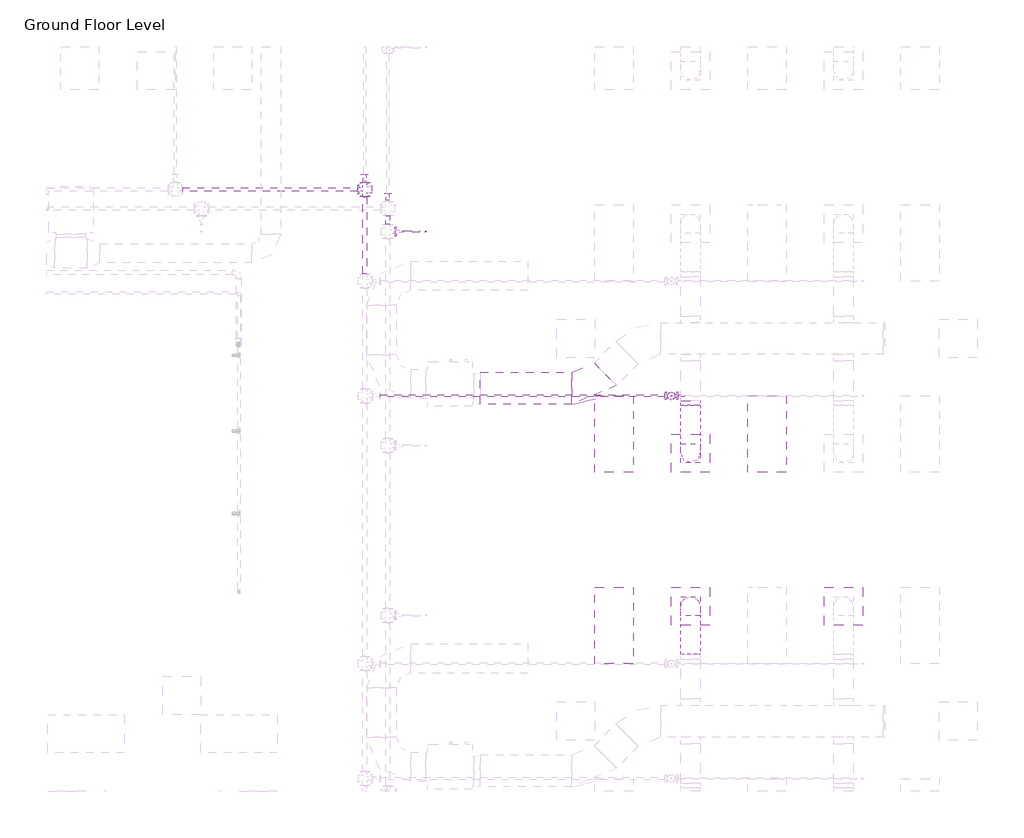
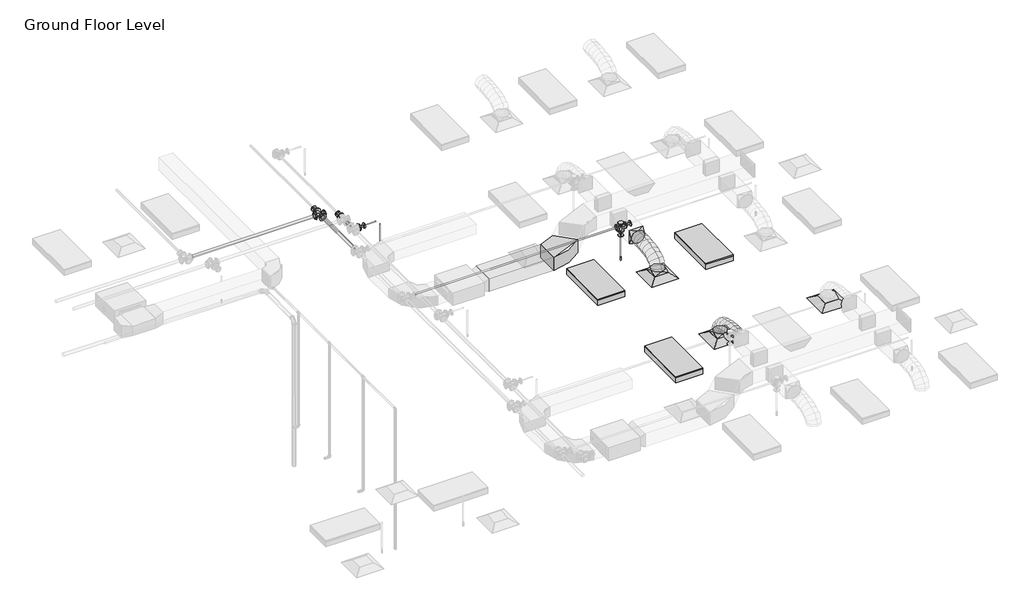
# One storey, part 63 of 68: 7 pipe fittings, 7 pipe segments, 4 duct fittings, 3 air terminals, 3 duct segments, 3 light fixtures, 2 fire suppression terminals.
"""IFC4 building model written with IfcOpenShell, lengths in millimetres."""

from ifc_helpers import new_model, si_unit, point, frame, frame_2d, origin, place, context, project, spatial, polyline, circle_curve, ellipse_curve, trimmed, segment, composite_curve, outline, extrude, transform, mapped, element, save
from ifc_brep_helpers import plane_surface, cylinder_surface, advanced_brep
from components import m_return_diffuser_600_x_600_face_300_x_300_connection_ff221211, m_rectangular_elbow_radius_1_5_w_acc56c25, m_rectangular_to_round_transition_angle_45_degree_641efff0, m_sprinkler_dry_pendent_hosted_15_mm_dry_pendent_9bda8e11, m_sprinkler_pendent_15_mm_pendent_06fcbd8e, m_troffer_light_parabolic_rectangular1_0600x1200mm_4_lamp_86473d4a, m_reducer_flanged_cs_class_150_standard_ccf252ad, m_reducer_flanged_cs_class_150_standard_9dfe9ec5, m_reducer_flanged_cs_class_150_standard_a7631c35, m_tee_round_base_flanged_cs_class_150_standard_dd767e04, m_tee_round_base_flanged_cs_class_150_standard_7e5987a1

model = new_model("IFC4")

# Units and contexts
model_context = context("Model", 3, world=origin())
ifc_project = project(units=[si_unit("LENGTHUNIT", "METRE", prefix="MILLI")], contexts=[model_context])

# Site, building, storey
site = spatial("IfcSite", under=ifc_project)
building = spatial("IfcBuilding", under=site)
storey = spatial("IfcBuildingStorey", under=building, Name="Ground Floor Level", Elevation=900.0)

# Air terminals
placement = place(None, origin())
m_return_diffuser_600_x_600_face_300_x_300_connection_shape = m_return_diffuser_600_x_600_face_300_x_300_connection_ff221211(model_context)
element("IfcAirTerminal", 1, ObjectType="M_Supply Diffuser : 600 x 600 Face 300 x 300 Connection", at=placement, inside=storey, context=model_context, shape_type="MappedRepresentation", body=[
    mapped(m_return_diffuser_600_x_600_face_300_x_300_connection_shape, transform((10742.7672395, 10935.2153534, 3650.0), x_axis=(1.0, 0.0, 0.0), y_axis=(0.0, 1.0, 0.0), z_axis=(0.0, 0.0, 1.0))),
])
element("IfcAirTerminal", 2, ObjectType="M_Supply Diffuser : 600 x 600 Face 300 x 300 Connection", at=placement, inside=storey, context=model_context, shape_type="MappedRepresentation", body=[
    mapped(m_return_diffuser_600_x_600_face_300_x_300_connection_shape, transform((10742.7672395, 8535.2153534, 3650.0), x_axis=(1.0, 0.0, 0.0), y_axis=(0.0, 1.0, 0.0), z_axis=(0.0, 0.0, 1.0))),
])
element("IfcAirTerminal", 3, ObjectType="M_Supply Diffuser : 600 x 600 Face 300 x 300 Connection", at=placement, inside=storey, context=model_context, shape_type="MappedRepresentation", body=[
    mapped(m_return_diffuser_600_x_600_face_300_x_300_connection_shape, transform((13142.7672395, 8535.2153534, 3650.0), x_axis=(1.0, 0.0, 0.0), y_axis=(0.0, 1.0, 0.0), z_axis=(0.0, 0.0, 1.0))),
])

# Duct fittings
m_rectangular_elbow_radius_1_5_w_shape = m_rectangular_elbow_radius_1_5_w_acc56c25(model_context)
element("IfcDuctFitting", 4, ObjectType="M_Rectangular Elbow - Radius : 1.5 W", at=placement, inside=storey, context=model_context, shape_type="MappedRepresentation", body=[
    mapped(m_rectangular_elbow_radius_1_5_w_shape, transform((9187.6927358, 11956.1779527, 4100.0047224), x_axis=(0.9999999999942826, 0.0, -3.3815582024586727e-06), y_axis=(-9.063610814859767e-12, 0.9999999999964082, -2.680306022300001e-06), z_axis=(3.3815582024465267e-06, 2.6803060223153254e-06, 0.9999999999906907))),
])
m_rectangular_to_round_transition_angle_45_degree_shape = m_rectangular_to_round_transition_angle_45_degree_641efff0(model_context)
element("IfcDuctFitting", 5, ObjectType="M_Rectangular to Round Transition - Angle : 45 Degree", at=placement, inside=storey, context=model_context, shape_type="MappedRepresentation", body=[
    mapped(m_rectangular_to_round_transition_angle_45_degree_shape, transform((10742.7672395, 8535.2153534, 3751.6), x_axis=(0.0, 0.0, 1.0), y_axis=(-1.0, 0.0, 0.0), z_axis=(0.0, -1.0, 0.0))),
])
element("IfcDuctFitting", 6, ObjectType="M_Rectangular to Round Transition - Angle : 45 Degree", at=placement, inside=storey, context=model_context, shape_type="MappedRepresentation", body=[
    mapped(m_rectangular_to_round_transition_angle_45_degree_shape, transform((10742.7672395, 10935.2153534, 3751.6), x_axis=(0.0, 0.0, 1.0), y_axis=(-1.0, 0.0, 0.0), z_axis=(0.0, -1.0, 0.0))),
])
element("IfcDuctFitting", 7, ObjectType="M_Rectangular to Round Transition - Angle : 45 Degree", at=placement, inside=storey, context=model_context, shape_type="MappedRepresentation", body=[
    mapped(m_rectangular_to_round_transition_angle_45_degree_shape, transform((10742.7672395, 11762.5512847, 4100.0), x_axis=(0.0, -1.0, 0.0), y_axis=(1.0, 0.0, 0.0), z_axis=(0.0, 0.0, 1.0))),
])

# Duct segments
element("IfcDuctSegment", 8, ObjectType="Flex - Round", at=placement, inside=storey, context=model_context, shape_type="AdvancedBrep", body=[
    advanced_brep(
    [(10892.7672395, 8535.2153534, 3826.6), (10742.7672395, 8385.2153534, 3826.6), (10592.7672395, 8535.2153534, 3826.6), (10742.7672395, 8685.2153534, 3826.6), (10892.7672395, 8535.2153534, 3857.9377114), (10742.7672395, 8385.2153534, 3832.2944892), (10592.7672395, 8535.2153534, 3857.9377114), (10742.7672395, 8685.2153534, 3883.5809337), (10892.7672395, 8518.1994208, 3906.2505728), (10742.7672395, 8384.4614419, 3834.435049), (10592.7672395, 8518.1994208, 3906.2505728), (10742.7672395, 8651.9373998, 3978.0660967), (10892.7672395, 8471.0155405, 3968.7113131), (10742.7672395, 8366.8096412, 3857.8020236), (10592.7672395, 8471.0155405, 3968.7113131), (10742.7672395, 8575.2214397, 4079.6206026), (10892.7672395, 8399.4595883, 4016.0700639), (10742.7672395, 8330.5255327, 3881.8163788), (10592.7672395, 8399.4595883, 4016.0700639), (10742.7672395, 8468.3936439, 4150.3237489), (10892.7672395, 8309.3274403, 4050.4146682), (10742.7672395, 8265.7666771, 3906.4925606), (10592.7672395, 8309.3274403, 4050.4146682), (10742.7672395, 8352.8882035, 4194.3367758), (10892.7672395, 8206.4149725, 4073.8329691), (10742.7672395, 8179.8540485, 3926.0424542), (10592.7672395, 8206.4149725, 4073.8329691), (10742.7672395, 8232.9758965, 4221.6234841), (10892.7672395, 8096.5180607, 4088.4128097), (10742.7672395, 8081.3671584, 3939.1085462), (10592.7672395, 8096.5180607, 4088.4128097), (10742.7672395, 8111.6689631, 4237.7170733), (10892.7672395, 7985.4325811, 4096.242033), (10742.7672395, 7977.9272529, 3946.398915), (10592.7672395, 7985.4325811, 4096.242033), (10742.7672395, 7992.9379093, 4246.085151), (10892.7672395, 7878.9544096, 4099.4084821), (10742.7672395, 7876.2629165, 3949.4222102), (10592.7672395, 7878.9544096, 4099.4084821), (10742.7672395, 7881.6459027, 4249.394754), (10892.7672395, 7782.8794221, 4100.0), (10742.7672395, 7783.8029299, 4249.9971571), (10592.7672395, 7782.8794221, 4100.0), (10742.7672395, 7781.9559143, 3950.0028429)],
    [
        (0, 1, circle_curve(frame((10742.7672395, 8535.2153534, 3826.6), z_axis=(0.0, 0.0, -1.0), x_axis=(1.0, 0.0, 0.0)), 150.0)),
        (1, 2, circle_curve(frame((10742.7672395, 8535.2153534, 3826.6), z_axis=(0.0, 0.0, -1.0), x_axis=(1.0, 0.0, 0.0)), 150.0)),
        (2, 3, circle_curve(frame((10742.7672395, 8535.2153534, 3826.6), z_axis=(0.0, 0.0, -1.0), x_axis=(1.0, 0.0, 0.0)), 150.0)),
        (3, 0, circle_curve(frame((10742.7672395, 8535.2153534, 3826.6), z_axis=(0.0, 0.0, -1.0), x_axis=(1.0, 0.0, 0.0)), 150.0)),
        (0, 4),
        (4, 5, ellipse_curve(frame((10742.7672395, 8535.2153534, 3857.9377114), z_axis=(0.0, 0.16851014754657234, -0.9856999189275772), x_axis=(0.0, -0.9856999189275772, -0.1685101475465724)), 152.176131, 150.0)),
        (5, 1),
        (5, 6, ellipse_curve(frame((10742.7672395, 8535.2153534, 3857.9377114), z_axis=(0.0, 0.16851014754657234, -0.9856999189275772), x_axis=(0.0, -0.9856999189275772, -0.1685101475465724)), 152.176131, 150.0)),
        (6, 2),
        (6, 7, ellipse_curve(frame((10742.7672395, 8535.2153534, 3857.9377114), z_axis=(0.0, 0.16851014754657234, -0.9856999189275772), x_axis=(0.0, -0.9856999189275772, -0.1685101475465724)), 152.176131, 150.0)),
        (7, 3),
        (7, 4, ellipse_curve(frame((10742.7672395, 8535.2153534, 3857.9377114), z_axis=(0.0, 0.16851014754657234, -0.9856999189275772), x_axis=(0.0, -0.9856999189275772, -0.1685101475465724)), 152.176131, 150.0)),
        (4, 8),
        (8, 9, ellipse_curve(frame((10742.7672395, 8518.1994208, 3906.2505728), z_axis=(0.0, 0.4730922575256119, -0.8810128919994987), x_axis=(0.0, -0.8810128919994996, -0.47309225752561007)), 151.8002519, 150.0)),
        (9, 5),
        (9, 10, ellipse_curve(frame((10742.7672395, 8518.1994208, 3906.2505728), z_axis=(0.0, 0.4730922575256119, -0.8810128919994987), x_axis=(0.0, -0.8810128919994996, -0.47309225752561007)), 151.8002519, 150.0)),
        (10, 6),
        (10, 11, ellipse_curve(frame((10742.7672395, 8518.1994208, 3906.2505728), z_axis=(0.0, 0.4730922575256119, -0.8810128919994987), x_axis=(0.0, -0.8810128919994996, -0.47309225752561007)), 151.8002519, 150.0)),
        (11, 7),
        (11, 8, ellipse_curve(frame((10742.7672395, 8518.1994208, 3906.2505728), z_axis=(0.0, 0.4730922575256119, -0.8810128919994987), x_axis=(0.0, -0.8810128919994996, -0.47309225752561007)), 151.8002519, 150.0)),
        (8, 12),
        (12, 13, ellipse_curve(frame((10742.7672395, 8471.0155405, 3968.7113131), z_axis=(0.0, 0.7287877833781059, -0.6847396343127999), x_axis=(0.0, -0.6847396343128, -0.7287877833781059)), 152.1832446, 150.0)),
        (13, 9),
        (13, 14, ellipse_curve(frame((10742.7672395, 8471.0155405, 3968.7113131), z_axis=(0.0, 0.7287877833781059, -0.6847396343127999), x_axis=(0.0, -0.6847396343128, -0.7287877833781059)), 152.1832446, 150.0)),
        (14, 10),
        (14, 15, ellipse_curve(frame((10742.7672395, 8471.0155405, 3968.7113131), z_axis=(0.0, 0.7287877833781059, -0.6847396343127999), x_axis=(0.0, -0.6847396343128, -0.7287877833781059)), 152.1832446, 150.0)),
        (15, 11),
        (15, 12, ellipse_curve(frame((10742.7672395, 8471.0155405, 3968.7113131), z_axis=(0.0, 0.7287877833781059, -0.6847396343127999), x_axis=(0.0, -0.6847396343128, -0.7287877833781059)), 152.1832446, 150.0)),
        (12, 16),
        (16, 17, ellipse_curve(frame((10742.7672395, 8399.4595883, 4016.0700639), z_axis=(0.0, 0.8895859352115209, -0.4567678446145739), x_axis=(0.0, -0.4567678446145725, -0.8895859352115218)), 150.91705, 150.0)),
        (17, 13),
        (17, 18, ellipse_curve(frame((10742.7672395, 8399.4595883, 4016.0700639), z_axis=(0.0, 0.8895859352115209, -0.4567678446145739), x_axis=(0.0, -0.4567678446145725, -0.8895859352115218)), 150.91705, 150.0)),
        (18, 14),
        (18, 19, ellipse_curve(frame((10742.7672395, 8399.4595883, 4016.0700639), z_axis=(0.0, 0.8895859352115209, -0.4567678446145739), x_axis=(0.0, -0.4567678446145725, -0.8895859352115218)), 150.91705, 150.0)),
        (19, 15),
        (19, 16, ellipse_curve(frame((10742.7672395, 8399.4595883, 4016.0700639), z_axis=(0.0, 0.8895859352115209, -0.4567678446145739), x_axis=(0.0, -0.4567678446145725, -0.8895859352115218)), 150.91705, 150.0)),
        (16, 20),
        (20, 21, ellipse_curve(frame((10742.7672395, 8309.3274403, 4050.4146682), z_axis=(0.0, 0.9571203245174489, -0.2896906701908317), x_axis=(0.0, -0.2896906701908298, -0.9571203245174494)), 150.369921, 150.0)),
        (21, 17),
        (21, 22, ellipse_curve(frame((10742.7672395, 8309.3274403, 4050.4146682), z_axis=(0.0, 0.9571203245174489, -0.2896906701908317), x_axis=(0.0, -0.2896906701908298, -0.9571203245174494)), 150.369921, 150.0)),
        (22, 18),
        (22, 23, ellipse_curve(frame((10742.7672395, 8309.3274403, 4050.4146682), z_axis=(0.0, 0.9571203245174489, -0.2896906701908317), x_axis=(0.0, -0.2896906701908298, -0.9571203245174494)), 150.369921, 150.0)),
        (23, 19),
        (23, 20, ellipse_curve(frame((10742.7672395, 8309.3274403, 4050.4146682), z_axis=(0.0, 0.9571203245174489, -0.2896906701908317), x_axis=(0.0, -0.2896906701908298, -0.9571203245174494)), 150.369921, 150.0)),
        (20, 24),
        (24, 25, ellipse_curve(frame((10742.7672395, 8206.4149725, 4073.8329691), z_axis=(0.0, 0.9842313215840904, -0.1768861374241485), x_axis=(0.0, -0.17688613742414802, -0.9842313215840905)), 150.1583131, 150.0)),
        (25, 21),
        (25, 26, ellipse_curve(frame((10742.7672395, 8206.4149725, 4073.8329691), z_axis=(0.0, 0.9842313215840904, -0.1768861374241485), x_axis=(0.0, -0.17688613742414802, -0.9842313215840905)), 150.1583131, 150.0)),
        (26, 22),
        (26, 27, ellipse_curve(frame((10742.7672395, 8206.4149725, 4073.8329691), z_axis=(0.0, 0.9842313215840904, -0.1768861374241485), x_axis=(0.0, -0.17688613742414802, -0.9842313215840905)), 150.1583131, 150.0)),
        (27, 23),
        (27, 24, ellipse_curve(frame((10742.7672395, 8206.4149725, 4073.8329691), z_axis=(0.0, 0.9842313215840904, -0.1768861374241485), x_axis=(0.0, -0.17688613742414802, -0.9842313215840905)), 150.1583131, 150.0)),
        (24, 28),
        (28, 29, ellipse_curve(frame((10742.7672395, 8096.5180607, 4088.4128097), z_axis=(0.0, 0.9948906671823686, -0.10095821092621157), x_axis=(0.0, -0.100958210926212, -0.9948906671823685)), 150.0710264, 150.0)),
        (29, 25),
        (29, 30, ellipse_curve(frame((10742.7672395, 8096.5180607, 4088.4128097), z_axis=(0.0, 0.9948906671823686, -0.10095821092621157), x_axis=(0.0, -0.100958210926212, -0.9948906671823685)), 150.0710264, 150.0)),
        (30, 26),
        (30, 31, ellipse_curve(frame((10742.7672395, 8096.5180607, 4088.4128097), z_axis=(0.0, 0.9948906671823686, -0.10095821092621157), x_axis=(0.0, -0.100958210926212, -0.9948906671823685)), 150.0710264, 150.0)),
        (31, 27),
        (31, 28, ellipse_curve(frame((10742.7672395, 8096.5180607, 4088.4128097), z_axis=(0.0, 0.9948906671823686, -0.10095821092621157), x_axis=(0.0, -0.100958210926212, -0.9948906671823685)), 150.0710264, 150.0)),
        (28, 32),
        (32, 33, ellipse_curve(frame((10742.7672395, 7985.4325811, 4096.242033), z_axis=(0.0, 0.9987479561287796, -0.05002519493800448), x_axis=(0.0, -0.050025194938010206, -0.9987479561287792)), 150.0309634, 150.0)),
        (33, 29),
        (33, 34, ellipse_curve(frame((10742.7672395, 7985.4325811, 4096.242033), z_axis=(0.0, 0.9987479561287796, -0.05002519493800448), x_axis=(0.0, -0.050025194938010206, -0.9987479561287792)), 150.0309634, 150.0)),
        (34, 30),
        (34, 35, ellipse_curve(frame((10742.7672395, 7985.4325811, 4096.242033), z_axis=(0.0, 0.9987479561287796, -0.05002519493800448), x_axis=(0.0, -0.050025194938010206, -0.9987479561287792)), 150.0309634, 150.0)),
        (35, 31),
        (35, 32, ellipse_curve(frame((10742.7672395, 7985.4325811, 4096.242033), z_axis=(0.0, 0.9987479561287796, -0.05002519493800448), x_axis=(0.0, -0.050025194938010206, -0.9987479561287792)), 150.0309634, 150.0)),
        (32, 36),
        (36, 37, ellipse_curve(frame((10742.7672395, 7878.9544096, 4099.4084821), z_axis=(0.0, 0.9998390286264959, -0.017942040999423), x_axis=(0.0, -0.01794204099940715, -0.9998390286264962)), 150.0104193, 150.0)),
        (37, 33),
        (37, 38, ellipse_curve(frame((10742.7672395, 7878.9544096, 4099.4084821), z_axis=(0.0, 0.9998390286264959, -0.017942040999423), x_axis=(0.0, -0.01794204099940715, -0.9998390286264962)), 150.0104193, 150.0)),
        (38, 34),
        (38, 39, ellipse_curve(frame((10742.7672395, 7878.9544096, 4099.4084821), z_axis=(0.0, 0.9998390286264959, -0.017942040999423), x_axis=(0.0, -0.01794204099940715, -0.9998390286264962)), 150.0104193, 150.0)),
        (39, 35),
        (39, 36, ellipse_curve(frame((10742.7672395, 7878.9544096, 4099.4084821), z_axis=(0.0, 0.9998390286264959, -0.017942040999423), x_axis=(0.0, -0.01794204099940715, -0.9998390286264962)), 150.0104193, 150.0)),
        (40, 41, circle_curve(frame((10742.7672395, 7782.8794221, 4100.0), z_axis=(0.0, -0.9999810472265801, 0.006156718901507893), x_axis=(1.0, 0.0, 0.0)), 150.0)),
        (41, 42, circle_curve(frame((10742.7672395, 7782.8794221, 4100.0), z_axis=(0.0, -0.9999810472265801, 0.006156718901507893), x_axis=(1.0, 0.0, 0.0)), 150.0)),
        (42, 43, circle_curve(frame((10742.7672395, 7782.8794221, 4100.0), z_axis=(0.0, -0.9999810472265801, 0.006156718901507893), x_axis=(1.0, 0.0, 0.0)), 150.0)),
        (43, 40, circle_curve(frame((10742.7672395, 7782.8794221, 4100.0), z_axis=(0.0, -0.9999810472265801, 0.006156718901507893), x_axis=(1.0, 0.0, 0.0)), 150.0)),
        (36, 40),
        (43, 37),
        (42, 38),
        (41, 39),
    ],
    [
        plane_surface(frame((10742.7672395, 8385.2153534, 3826.6), z_axis=(0.0, 0.0, -1.0), x_axis=(1.0, 0.0, 0.0))),
        cylinder_surface(frame((10742.7672395, 8535.2153534, 3826.6), z_axis=(0.0, 0.0, -1.0), x_axis=(1.0, 0.0, 0.0)), 150.0),
        cylinder_surface(frame((10742.7672395, 8535.2153534, 3857.9377114), z_axis=(0.0, 0.3322008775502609, -0.9432086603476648), x_axis=(1.0, 0.0, 0.0)), 150.0),
        cylinder_surface(frame((10742.7672395, 8518.1994208, 3906.2505728), z_axis=(0.0, 0.6027625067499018, -0.7979206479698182), x_axis=(1.0, 0.0, 0.0)), 150.0),
        cylinder_surface(frame((10742.7672395, 8471.0155405, 3968.7113131), z_axis=(0.0, 0.8339024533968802, -0.5519118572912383), x_axis=(1.0, 0.0, 0.0)), 150.0),
        cylinder_surface(frame((10742.7672395, 8399.4595883, 4016.0700639), z_axis=(0.0, 0.934458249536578, -0.35607271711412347), x_axis=(1.0, 0.0, 0.0)), 150.0),
        cylinder_surface(frame((10742.7672395, 8309.3274403, 4050.4146682), z_axis=(0.0, 0.9750732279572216, -0.2218833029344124), x_axis=(1.0, 0.0, 0.0)), 150.0),
        cylinder_surface(frame((10742.7672395, 8206.4149725, 4073.8329691), z_axis=(0.0, 0.9913140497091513, -0.13151598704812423), x_axis=(1.0, 0.0, 0.0)), 150.0),
        cylinder_surface(frame((10742.7672395, 8096.5180607, 4088.4128097), z_axis=(0.0, 0.9975255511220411, -0.07030487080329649), x_axis=(1.0, 0.0, 0.0)), 150.0),
        cylinder_surface(frame((10742.7672395, 7985.4325811, 4096.242033), z_axis=(0.0, 0.9995581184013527, -0.029724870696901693), x_axis=(1.0, 0.0, 0.0)), 150.0),
        plane_surface(frame((10742.7672395, 7781.9559143, 3950.0028429), z_axis=(0.0, -0.9999810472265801, 0.0061567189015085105), x_axis=(1.0, 0.0, 0.0))),
        cylinder_surface(frame((10742.7672395, 7878.9544096, 4099.4084821), z_axis=(0.0, 0.9999810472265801, -0.006156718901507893), x_axis=(1.0, 0.0, 0.0)), 150.0),
    ],
    [
        (0, [[1, 2, 3, 4]]),
        (1, [[-1, 5, 6, 7]]),
        (1, [[-2, -7, 8, 9]]),
        (1, [[-3, -9, 10, 11]]),
        (1, [[-4, -11, 12, -5]]),
        (2, [[-6, 13, 14, 15]]),
        (2, [[-8, -15, 16, 17]]),
        (2, [[-10, -17, 18, 19]]),
        (2, [[-12, -19, 20, -13]]),
        (3, [[-14, 21, 22, 23]]),
        (3, [[-16, -23, 24, 25]]),
        (3, [[-18, -25, 26, 27]]),
        (3, [[-20, -27, 28, -21]]),
        (4, [[-22, 29, 30, 31]]),
        (4, [[-24, -31, 32, 33]]),
        (4, [[-26, -33, 34, 35]]),
        (4, [[-28, -35, 36, -29]]),
        (5, [[-30, 37, 38, 39]]),
        (5, [[-32, -39, 40, 41]]),
        (5, [[-34, -41, 42, 43]]),
        (5, [[-36, -43, 44, -37]]),
        (6, [[-38, 45, 46, 47]]),
        (6, [[-40, -47, 48, 49]]),
        (6, [[-42, -49, 50, 51]]),
        (6, [[-44, -51, 52, -45]]),
        (7, [[-46, 53, 54, 55]]),
        (7, [[-48, -55, 56, 57]]),
        (7, [[-50, -57, 58, 59]]),
        (7, [[-52, -59, 60, -53]]),
        (8, [[-54, 61, 62, 63]]),
        (8, [[-56, -63, 64, 65]]),
        (8, [[-58, -65, 66, 67]]),
        (8, [[-60, -67, 68, -61]]),
        (9, [[-62, 69, 70, 71]]),
        (9, [[-64, -71, 72, 73]]),
        (9, [[-66, -73, 74, 75]]),
        (9, [[-68, -75, 76, -69]]),
        (10, [[77, 78, 79, 80]]),
        (11, [[-70, 81, -80, 82]]),
        (11, [[-72, -82, -79, 83]]),
        (11, [[-74, -83, -78, 84]]),
        (11, [[-76, -84, -77, -81]]),
    ],
),
])
element("IfcDuctSegment", 9, ObjectType="Flex - Round", at=placement, inside=storey, context=model_context, shape_type="AdvancedBrep", body=[
    advanced_brep(
    [(10892.7672395, 10935.2153534, 3826.6), (10742.7672395, 10785.2153534, 3826.6), (10592.7672395, 10935.2153534, 3826.6), (10742.7672395, 11085.2153534, 3826.6), (10892.7672395, 10935.2153534, 3857.9377114), (10742.7672395, 10785.2153534, 3883.5809337), (10592.7672395, 10935.2153534, 3857.9377114), (10742.7672395, 11085.2153534, 3832.2944892), (10892.7672395, 10952.2312859, 3906.2505728), (10742.7672395, 10818.493307, 3978.0660967), (10592.7672395, 10952.2312859, 3906.2505728), (10742.7672395, 11085.9692649, 3834.435049), (10892.7672395, 10999.4151663, 3968.7113131), (10742.7672395, 10895.209267, 4079.6206026), (10592.7672395, 10999.4151663, 3968.7113131), (10742.7672395, 11103.6210655, 3857.8020236), (10892.7672395, 11070.9711184, 4016.0700639), (10742.7672395, 11002.0370628, 4150.3237489), (10592.7672395, 11070.9711184, 4016.0700639), (10742.7672395, 11139.9051741, 3881.8163788), (10892.7672395, 11161.1032664, 4050.4146682), (10742.7672395, 11117.5425033, 4194.3367758), (10592.7672395, 11161.1032664, 4050.4146682), (10742.7672395, 11204.6640296, 3906.4925606), (10892.7672395, 11264.0157343, 4073.8329691), (10742.7672395, 11237.4548103, 4221.6234841), (10592.7672395, 11264.0157343, 4073.8329691), (10742.7672395, 11290.5766583, 3926.0424542), (10892.7672395, 11373.912646, 4088.4128097), (10742.7672395, 11358.7617437, 4237.7170733), (10592.7672395, 11373.912646, 4088.4128097), (10742.7672395, 11389.0635483, 3939.1085462), (10892.7672395, 11484.9981256, 4096.242033), (10742.7672395, 11477.4927975, 4246.085151), (10592.7672395, 11484.9981256, 4096.242033), (10742.7672395, 11492.5034538, 3946.398915), (10892.7672395, 11591.4762972, 4099.4084821), (10742.7672395, 11588.7848041, 4249.394754), (10592.7672395, 11591.4762972, 4099.4084821), (10742.7672395, 11594.1677903, 3949.4222102), (10892.7672395, 11687.5512847, 4100.0), (10742.7672395, 11688.4747925, 3950.0028429), (10592.7672395, 11687.5512847, 4100.0), (10742.7672395, 11686.6277768, 4249.9971571)],
    [
        (0, 1, circle_curve(frame((10742.7672395, 10935.2153534, 3826.6), z_axis=(0.0, 0.0, -1.0), x_axis=(1.0, 0.0, 0.0)), 150.0)),
        (1, 2, circle_curve(frame((10742.7672395, 10935.2153534, 3826.6), z_axis=(0.0, 0.0, -1.0), x_axis=(1.0, 0.0, 0.0)), 150.0)),
        (2, 3, circle_curve(frame((10742.7672395, 10935.2153534, 3826.6), z_axis=(0.0, 0.0, -1.0), x_axis=(1.0, 0.0, 0.0)), 150.0)),
        (3, 0, circle_curve(frame((10742.7672395, 10935.2153534, 3826.6), z_axis=(0.0, 0.0, -1.0), x_axis=(1.0, 0.0, 0.0)), 150.0)),
        (0, 4),
        (4, 5, ellipse_curve(frame((10742.7672395, 10935.2153534, 3857.9377114), z_axis=(0.0, -0.16851014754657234, -0.9856999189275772), x_axis=(0.0, 0.9856999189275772, -0.1685101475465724)), 152.176131, 150.0)),
        (5, 1),
        (5, 6, ellipse_curve(frame((10742.7672395, 10935.2153534, 3857.9377114), z_axis=(0.0, -0.16851014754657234, -0.9856999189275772), x_axis=(0.0, 0.9856999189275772, -0.1685101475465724)), 152.176131, 150.0)),
        (6, 2),
        (6, 7, ellipse_curve(frame((10742.7672395, 10935.2153534, 3857.9377114), z_axis=(0.0, -0.16851014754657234, -0.9856999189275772), x_axis=(0.0, 0.9856999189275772, -0.1685101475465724)), 152.176131, 150.0)),
        (7, 3),
        (7, 4, ellipse_curve(frame((10742.7672395, 10935.2153534, 3857.9377114), z_axis=(0.0, -0.16851014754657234, -0.9856999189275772), x_axis=(0.0, 0.9856999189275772, -0.1685101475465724)), 152.176131, 150.0)),
        (4, 8),
        (8, 9, ellipse_curve(frame((10742.7672395, 10952.2312859, 3906.2505728), z_axis=(0.0, -0.47309225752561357, -0.8810128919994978), x_axis=(0.0, 0.8810128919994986, -0.47309225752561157)), 151.8002519, 150.0)),
        (9, 5),
        (9, 10, ellipse_curve(frame((10742.7672395, 10952.2312859, 3906.2505728), z_axis=(0.0, -0.47309225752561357, -0.8810128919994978), x_axis=(0.0, 0.8810128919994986, -0.47309225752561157)), 151.8002519, 150.0)),
        (10, 6),
        (10, 11, ellipse_curve(frame((10742.7672395, 10952.2312859, 3906.2505728), z_axis=(0.0, -0.47309225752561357, -0.8810128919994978), x_axis=(0.0, 0.8810128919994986, -0.47309225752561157)), 151.8002519, 150.0)),
        (11, 7),
        (11, 8, ellipse_curve(frame((10742.7672395, 10952.2312859, 3906.2505728), z_axis=(0.0, -0.47309225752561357, -0.8810128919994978), x_axis=(0.0, 0.8810128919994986, -0.47309225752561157)), 151.8002519, 150.0)),
        (8, 12),
        (12, 13, ellipse_curve(frame((10742.7672395, 10999.4151663, 3968.7113131), z_axis=(0.0, -0.7287877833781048, -0.6847396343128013), x_axis=(0.0, 0.6847396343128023, -0.7287877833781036)), 152.1832446, 150.0)),
        (13, 9),
        (13, 14, ellipse_curve(frame((10742.7672395, 10999.4151663, 3968.7113131), z_axis=(0.0, -0.7287877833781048, -0.6847396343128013), x_axis=(0.0, 0.6847396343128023, -0.7287877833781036)), 152.1832446, 150.0)),
        (14, 10),
        (14, 15, ellipse_curve(frame((10742.7672395, 10999.4151663, 3968.7113131), z_axis=(0.0, -0.7287877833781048, -0.6847396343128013), x_axis=(0.0, 0.6847396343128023, -0.7287877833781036)), 152.1832446, 150.0)),
        (15, 11),
        (15, 12, ellipse_curve(frame((10742.7672395, 10999.4151663, 3968.7113131), z_axis=(0.0, -0.7287877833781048, -0.6847396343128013), x_axis=(0.0, 0.6847396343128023, -0.7287877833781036)), 152.1832446, 150.0)),
        (12, 16),
        (16, 17, ellipse_curve(frame((10742.7672395, 11070.9711184, 4016.0700639), z_axis=(0.0, -0.8895859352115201, -0.45676784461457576), x_axis=(0.0, 0.45676784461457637, -0.8895859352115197)), 150.91705, 150.0)),
        (17, 13),
        (17, 18, ellipse_curve(frame((10742.7672395, 11070.9711184, 4016.0700639), z_axis=(0.0, -0.8895859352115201, -0.45676784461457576), x_axis=(0.0, 0.45676784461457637, -0.8895859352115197)), 150.91705, 150.0)),
        (18, 14),
        (18, 19, ellipse_curve(frame((10742.7672395, 11070.9711184, 4016.0700639), z_axis=(0.0, -0.8895859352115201, -0.45676784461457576), x_axis=(0.0, 0.45676784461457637, -0.8895859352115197)), 150.91705, 150.0)),
        (19, 15),
        (19, 16, ellipse_curve(frame((10742.7672395, 11070.9711184, 4016.0700639), z_axis=(0.0, -0.8895859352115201, -0.45676784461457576), x_axis=(0.0, 0.45676784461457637, -0.8895859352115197)), 150.91705, 150.0)),
        (16, 20),
        (20, 21, ellipse_curve(frame((10742.7672395, 11161.1032664, 4050.4146682), z_axis=(0.0, -0.9571203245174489, -0.2896906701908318), x_axis=(0.0, 0.28969067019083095, -0.9571203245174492)), 150.369921, 150.0)),
        (21, 17),
        (21, 22, ellipse_curve(frame((10742.7672395, 11161.1032664, 4050.4146682), z_axis=(0.0, -0.9571203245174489, -0.2896906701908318), x_axis=(0.0, 0.28969067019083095, -0.9571203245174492)), 150.369921, 150.0)),
        (22, 18),
        (22, 23, ellipse_curve(frame((10742.7672395, 11161.1032664, 4050.4146682), z_axis=(0.0, -0.9571203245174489, -0.2896906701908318), x_axis=(0.0, 0.28969067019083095, -0.9571203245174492)), 150.369921, 150.0)),
        (23, 19),
        (23, 20, ellipse_curve(frame((10742.7672395, 11161.1032664, 4050.4146682), z_axis=(0.0, -0.9571203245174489, -0.2896906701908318), x_axis=(0.0, 0.28969067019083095, -0.9571203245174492)), 150.369921, 150.0)),
        (20, 24),
        (24, 25, ellipse_curve(frame((10742.7672395, 11264.0157343, 4073.8329691), z_axis=(0.0, -0.9842313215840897, -0.17688613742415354), x_axis=(0.0, 0.1768861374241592, -0.9842313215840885)), 150.1583131, 150.0)),
        (25, 21),
        (25, 26, ellipse_curve(frame((10742.7672395, 11264.0157343, 4073.8329691), z_axis=(0.0, -0.9842313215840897, -0.17688613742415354), x_axis=(0.0, 0.1768861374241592, -0.9842313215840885)), 150.1583131, 150.0)),
        (26, 22),
        (26, 27, ellipse_curve(frame((10742.7672395, 11264.0157343, 4073.8329691), z_axis=(0.0, -0.9842313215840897, -0.17688613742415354), x_axis=(0.0, 0.1768861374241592, -0.9842313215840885)), 150.1583131, 150.0)),
        (27, 23),
        (27, 24, ellipse_curve(frame((10742.7672395, 11264.0157343, 4073.8329691), z_axis=(0.0, -0.9842313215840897, -0.17688613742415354), x_axis=(0.0, 0.1768861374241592, -0.9842313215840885)), 150.1583131, 150.0)),
        (24, 28),
        (28, 29, ellipse_curve(frame((10742.7672395, 11373.912646, 4088.4128097), z_axis=(0.0, -0.9948906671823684, -0.10095821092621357), x_axis=(0.0, 0.10095821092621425, -0.9948906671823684)), 150.0710264, 150.0)),
        (29, 25),
        (29, 30, ellipse_curve(frame((10742.7672395, 11373.912646, 4088.4128097), z_axis=(0.0, -0.9948906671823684, -0.10095821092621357), x_axis=(0.0, 0.10095821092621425, -0.9948906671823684)), 150.0710264, 150.0)),
        (30, 26),
        (30, 31, ellipse_curve(frame((10742.7672395, 11373.912646, 4088.4128097), z_axis=(0.0, -0.9948906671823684, -0.10095821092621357), x_axis=(0.0, 0.10095821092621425, -0.9948906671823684)), 150.0710264, 150.0)),
        (31, 27),
        (31, 28, ellipse_curve(frame((10742.7672395, 11373.912646, 4088.4128097), z_axis=(0.0, -0.9948906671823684, -0.10095821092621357), x_axis=(0.0, 0.10095821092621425, -0.9948906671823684)), 150.0710264, 150.0)),
        (28, 32),
        (32, 33, ellipse_curve(frame((10742.7672395, 11484.9981256, 4096.242033), z_axis=(0.0, -0.9987479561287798, -0.05002519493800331), x_axis=(0.0, 0.050025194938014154, -0.9987479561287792)), 150.0309634, 150.0)),
        (33, 29),
        (33, 34, ellipse_curve(frame((10742.7672395, 11484.9981256, 4096.242033), z_axis=(0.0, -0.9987479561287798, -0.05002519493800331), x_axis=(0.0, 0.050025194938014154, -0.9987479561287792)), 150.0309634, 150.0)),
        (34, 30),
        (34, 35, ellipse_curve(frame((10742.7672395, 11484.9981256, 4096.242033), z_axis=(0.0, -0.9987479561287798, -0.05002519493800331), x_axis=(0.0, 0.050025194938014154, -0.9987479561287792)), 150.0309634, 150.0)),
        (35, 31),
        (35, 32, ellipse_curve(frame((10742.7672395, 11484.9981256, 4096.242033), z_axis=(0.0, -0.9987479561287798, -0.05002519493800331), x_axis=(0.0, 0.050025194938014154, -0.9987479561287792)), 150.0309634, 150.0)),
        (32, 36),
        (36, 37, ellipse_curve(frame((10742.7672395, 11591.4762972, 4099.4084821), z_axis=(0.0, -0.9998390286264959, -0.01794204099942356), x_axis=(-1.8187895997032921e-12, 0.017942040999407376, -0.9998390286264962)), 150.0104193, 150.0)),
        (37, 33),
        (37, 38, ellipse_curve(frame((10742.7672395, 11591.4762972, 4099.4084821), z_axis=(0.0, -0.9998390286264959, -0.01794204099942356), x_axis=(-1.8187895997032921e-12, 0.017942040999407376, -0.9998390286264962)), 150.0104193, 150.0)),
        (38, 34),
        (38, 39, ellipse_curve(frame((10742.7672395, 11591.4762972, 4099.4084821), z_axis=(0.0, -0.9998390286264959, -0.01794204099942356), x_axis=(-1.8187895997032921e-12, 0.017942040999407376, -0.9998390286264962)), 150.0104193, 150.0)),
        (39, 35),
        (39, 36, ellipse_curve(frame((10742.7672395, 11591.4762972, 4099.4084821), z_axis=(0.0, -0.9998390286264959, -0.01794204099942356), x_axis=(-1.8187895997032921e-12, 0.017942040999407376, -0.9998390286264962)), 150.0104193, 150.0)),
        (40, 41, circle_curve(frame((10742.7672395, 11687.5512847, 4100.0), z_axis=(0.0, 0.9999810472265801, 0.006156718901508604), x_axis=(1.0, 0.0, 0.0)), 150.0)),
        (41, 42, circle_curve(frame((10742.7672395, 11687.5512847, 4100.0), z_axis=(0.0, 0.9999810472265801, 0.006156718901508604), x_axis=(1.0, 0.0, 0.0)), 150.0)),
        (42, 43, circle_curve(frame((10742.7672395, 11687.5512847, 4100.0), z_axis=(0.0, 0.9999810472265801, 0.006156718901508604), x_axis=(1.0, 0.0, 0.0)), 150.0)),
        (43, 40, circle_curve(frame((10742.7672395, 11687.5512847, 4100.0), z_axis=(0.0, 0.9999810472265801, 0.006156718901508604), x_axis=(1.0, 0.0, 0.0)), 150.0)),
        (36, 40),
        (43, 37),
        (42, 38),
        (41, 39),
    ],
    [
        plane_surface(frame((10742.7672395, 10785.2153534, 3826.6), z_axis=(0.0, 0.0, -1.0), x_axis=(1.0, 0.0, 0.0))),
        cylinder_surface(frame((10742.7672395, 10935.2153534, 3826.6), z_axis=(0.0, 0.0, -1.0), x_axis=(1.0, 0.0, 0.0)), 150.0),
        cylinder_surface(frame((10742.7672395, 10935.2153534, 3857.9377114), z_axis=(0.0, -0.3322008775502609, -0.9432086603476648), x_axis=(1.0, 0.0, 0.0)), 150.0),
        cylinder_surface(frame((10742.7672395, 10952.2312859, 3906.2505728), z_axis=(0.0, -0.6027625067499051, -0.7979206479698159), x_axis=(1.0, 0.0, 0.0)), 150.0),
        cylinder_surface(frame((10742.7672395, 10999.4151663, 3968.7113131), z_axis=(0.0, -0.833902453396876, -0.5519118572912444), x_axis=(1.0, 0.0, 0.0)), 150.0),
        cylinder_surface(frame((10742.7672395, 11070.9711184, 4016.0700639), z_axis=(0.0, -0.9344582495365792, -0.35607271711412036), x_axis=(1.0, 0.0, 0.0)), 150.0),
        cylinder_surface(frame((10742.7672395, 11161.1032664, 4050.4146682), z_axis=(0.0, -0.9750732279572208, -0.22188330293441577), x_axis=(1.0, 0.0, 0.0)), 150.0),
        cylinder_surface(frame((10742.7672395, 11264.0157343, 4073.8329691), z_axis=(0.0, -0.9913140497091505, -0.131515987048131), x_axis=(1.0, 0.0, 0.0)), 150.0),
        cylinder_surface(frame((10742.7672395, 11373.912646, 4088.4128097), z_axis=(0.0, -0.9975255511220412, -0.07030487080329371), x_axis=(1.0, 0.0, 0.0)), 150.0),
        cylinder_surface(frame((10742.7672395, 11484.9981256, 4096.242033), z_axis=(0.0, -0.9995581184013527, -0.029724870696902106), x_axis=(1.0, 0.0, 0.0)), 150.0),
        plane_surface(frame((10742.7672395, 11686.6277768, 4249.9971571), z_axis=(0.0, 0.9999810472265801, 0.0061567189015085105), x_axis=(1.0, 0.0, 0.0))),
        cylinder_surface(frame((10742.7672395, 11591.4762972, 4099.4084821), z_axis=(0.0, -0.9999810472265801, -0.006156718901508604), x_axis=(1.0, 0.0, 0.0)), 150.0),
    ],
    [
        (0, [[1, 2, 3, 4]]),
        (1, [[-1, 5, 6, 7]]),
        (1, [[-2, -7, 8, 9]]),
        (1, [[-3, -9, 10, 11]]),
        (1, [[-4, -11, 12, -5]]),
        (2, [[-6, 13, 14, 15]]),
        (2, [[-8, -15, 16, 17]]),
        (2, [[-10, -17, 18, 19]]),
        (2, [[-12, -19, 20, -13]]),
        (3, [[-14, 21, 22, 23]]),
        (3, [[-16, -23, 24, 25]]),
        (3, [[-18, -25, 26, 27]]),
        (3, [[-20, -27, 28, -21]]),
        (4, [[-22, 29, 30, 31]]),
        (4, [[-24, -31, 32, 33]]),
        (4, [[-26, -33, 34, 35]]),
        (4, [[-28, -35, 36, -29]]),
        (5, [[-30, 37, 38, 39]]),
        (5, [[-32, -39, 40, 41]]),
        (5, [[-34, -41, 42, 43]]),
        (5, [[-36, -43, 44, -37]]),
        (6, [[-38, 45, 46, 47]]),
        (6, [[-40, -47, 48, 49]]),
        (6, [[-42, -49, 50, 51]]),
        (6, [[-44, -51, 52, -45]]),
        (7, [[-46, 53, 54, 55]]),
        (7, [[-48, -55, 56, 57]]),
        (7, [[-50, -57, 58, 59]]),
        (7, [[-52, -59, 60, -53]]),
        (8, [[-54, 61, 62, 63]]),
        (8, [[-56, -63, 64, 65]]),
        (8, [[-58, -65, 66, 67]]),
        (8, [[-60, -67, 68, -61]]),
        (9, [[-62, 69, 70, 71]]),
        (9, [[-64, -71, 72, 73]]),
        (9, [[-66, -73, 74, 75]]),
        (9, [[-68, -75, 76, -69]]),
        (10, [[77, 78, 79, 80]]),
        (11, [[-70, 81, -80, 82]]),
        (11, [[-72, -82, -79, 83]]),
        (11, [[-74, -83, -78, 84]]),
        (11, [[-76, -84, -77, -81]]),
    ],
),
])
element("IfcDuctSegment", 10, ObjectType="Radius Elbows / Taps", at=placement, inside=storey, context=model_context, shape_type="SweptSolid", body=[
    extrude(outline(polyline([(7447.693178, 11706.1779527), (7447.693178, 12206.1779527), (8877.032564, 12206.1779527), (8877.032564, 11706.1779527), (7447.693178, 11706.1779527)])), frame((0.0, 0.0, 3950.0057729), z_axis=(0.0, 0.0, 1.0), x_axis=(1.0, 0.0, 0.0)), (0.0, 0.0, 1.0), 300.0),
])

# Fire suppression terminals
m_sprinkler_dry_pendent_hosted_15_mm_dry_pendent_shape = m_sprinkler_dry_pendent_hosted_15_mm_dry_pendent_9bda8e11(model_context)
element("IfcFireSuppressionTerminal", 11, ObjectType="M_Sprinkler - Dry - Pendent - Hosted : 15 mm Dry Pendent", at=placement, inside=storey, context=model_context, shape_type="MappedRepresentation", body=[
    mapped(m_sprinkler_dry_pendent_hosted_15_mm_dry_pendent_shape, transform((10442.7672395, 11835.2153534, 3650.0), x_axis=(1.0, 0.0, 0.0), y_axis=(0.0, -1.0, 0.0), z_axis=(0.0, 0.0, -1.0))),
])
m_sprinkler_pendent_15_mm_pendent_shape = m_sprinkler_pendent_15_mm_pendent_06fcbd8e(model_context)
element("IfcFireSuppressionTerminal", 12, ObjectType="M_Sprinkler - Pendent : 15 mm Pendent", at=placement, inside=storey, context=model_context, shape_type="MappedRepresentation", body=[
    mapped(m_sprinkler_pendent_15_mm_pendent_shape, transform((6592.5481019, 14412.7243649, 3650.0), x_axis=(1.0, 0.0, 0.0), y_axis=(0.0, 1.0, 0.0), z_axis=(0.0, 0.0, 1.0))),
])

# Light fixtures
m_troffer_light_parabolic_rectangular1_0600x1200mm_4_lamp_shape = m_troffer_light_parabolic_rectangular1_0600x1200mm_4_lamp_86473d4a(model_context)
element("IfcLightFixture", 13, ObjectType="M_Troffer Light - Parabolic Rectangular1 : 0600x1200mm(4 Lamp) - 277V 2", at=placement, inside=storey, context=model_context, shape_type="MappedRepresentation", body=[
    mapped(m_troffer_light_parabolic_rectangular1_0600x1200mm_4_lamp_shape, transform((9483.3013074, 11253.918855, 3650.0), x_axis=(0.0, 1.0, 0.0), y_axis=(-1.0, 0.0, 0.0), z_axis=(0.0, 0.0, 1.0))),
])
element("IfcLightFixture", 14, ObjectType="M_Troffer Light - Parabolic Rectangular1 : 0600x1200mm(4 Lamp) - 277V 2", at=placement, inside=storey, context=model_context, shape_type="MappedRepresentation", body=[
    mapped(m_troffer_light_parabolic_rectangular1_0600x1200mm_4_lamp_shape, transform((11883.3013074, 11253.918855, 3650.0), x_axis=(0.0, 1.0, 0.0), y_axis=(-1.0, 0.0, 0.0), z_axis=(0.0, 0.0, 1.0))),
])
element("IfcLightFixture", 15, ObjectType="M_Troffer Light - Parabolic Rectangular1 : 0600x1200mm(4 Lamp) - 277V 2", at=placement, inside=storey, context=model_context, shape_type="MappedRepresentation", body=[
    mapped(m_troffer_light_parabolic_rectangular1_0600x1200mm_4_lamp_shape, transform((9483.3013074, 8253.9188549, 3650.0), x_axis=(0.0, 1.0, 0.0), y_axis=(-1.0, 0.0, 0.0), z_axis=(0.0, 0.0, 1.0))),
])

# Pipe fittings
m_reducer_flanged_cs_class_150_standard_shape = m_reducer_flanged_cs_class_150_standard_ccf252ad(model_context)
element("IfcPipeFitting", 16, ObjectType="M_Reducer - Flanged - CS - Class 150 : Standard", at=placement, inside=storey, context=model_context, shape_type="MappedRepresentation", body=[
    mapped(m_reducer_flanged_cs_class_150_standard_shape, transform((10543.4758332, 11835.2153534, 4360.0), x_axis=(1.0, 0.0, 0.0), y_axis=(0.0, 0.0, 1.0), z_axis=(0.0, -1.0, 0.0))),
])
element("IfcPipeFitting", 17, ObjectType="M_Reducer - Flanged - CS - Class 150 : Standard", at=placement, inside=storey, context=model_context, shape_type="MappedRepresentation", body=[
    mapped(m_reducer_flanged_cs_class_150_standard_shape, transform((10442.7672395, 11835.2153534, 4259.2914062), x_axis=(0.0, 0.0, -1.0), y_axis=(-1.0, 0.0, 0.0), z_axis=(0.0, 1.0, 0.0))),
])
m_reducer_flanged_cs_class_150_standard_2_shape = m_reducer_flanged_cs_class_150_standard_9dfe9ec5(model_context)
element("IfcPipeFitting", 18, ObjectType="M_Reducer - Flanged - CS - Class 150 : Standard", at=placement, inside=storey, context=model_context, shape_type="MappedRepresentation", body=[
    mapped(m_reducer_flanged_cs_class_150_standard_2_shape, transform((6111.057812, 14412.7243649, 4291.2754753), x_axis=(1.0, 0.0, 0.0), y_axis=(0.0, 0.0, -1.0), z_axis=(0.0, 1.0, 0.0))),
])
m_reducer_flanged_cs_class_150_standard_3_shape = m_reducer_flanged_cs_class_150_standard_a7631c35(model_context)
element("IfcPipeFitting", 19, ObjectType="M_Reducer - Flanged - CS - Class 150 : Standard", at=placement, inside=storey, context=model_context, shape_type="MappedRepresentation", body=[
    mapped(m_reducer_flanged_cs_class_150_standard_3_shape, transform((5997.057812, 14887.4681847, 4291.0943441), x_axis=(0.0, 1.0, 0.0), y_axis=(-1.0, 0.0, 0.0), z_axis=(0.0, 0.0, 1.0))),
])
element("IfcPipeFitting", 20, ObjectType="M_Reducer - Flanged - CS - Class 150 : Standard", at=placement, inside=storey, context=model_context, shape_type="MappedRepresentation", body=[
    mapped(m_reducer_flanged_cs_class_150_standard_3_shape, transform((5635.869498, 15187.2009828, 4360.0), x_axis=(0.0, 1.0, 0.0), y_axis=(-1.0, 0.0, 0.0), z_axis=(0.0, 0.0, 1.0))),
])
m_tee_round_base_flanged_cs_class_150_standard_shape = m_tee_round_base_flanged_cs_class_150_standard_dd767e04(model_context)
element("IfcPipeFitting", 21, ObjectType="M_Tee Round Base - Flanged - CS - Class 150 : Standard", at=placement, inside=storey, context=model_context, shape_type="MappedRepresentation", body=[
    mapped(m_tee_round_base_flanged_cs_class_150_standard_shape, transform((5635.869498, 15073.2009828, 4360.0), x_axis=(0.0, -1.0, 0.0), y_axis=(1.0, 0.0, 0.0), z_axis=(0.0, 0.0, 1.0))),
])
m_tee_round_base_flanged_cs_class_150_standard_2_shape = m_tee_round_base_flanged_cs_class_150_standard_7e5987a1(model_context)
element("IfcPipeFitting", 22, ObjectType="M_Tee Round Base - Flanged - CS - Class 150 : Standard", at=placement, inside=storey, context=model_context, shape_type="MappedRepresentation", body=[
    mapped(m_tee_round_base_flanged_cs_class_150_standard_2_shape, transform((10442.7672395, 11835.2153534, 4360.0), x_axis=(1.0, 0.0, 0.0), y_axis=(0.0, 0.0, 1.0), z_axis=(0.0, -1.0, 0.0))),
])

# Pipe segments
element("IfcPipeSegment", 23, ObjectType="Steel flanged", at=placement, inside=storey, context=model_context, shape_type="SweptSolid", body=[
    extrude(outline(composite_curve([segment(trimmed(circle_curve(frame_2d((6592.5481019, 14412.7243649)), 10.668), [point((6581.8801019, 14412.7243649))], [point((6592.5481019, 14423.3923649))], False, "CARTESIAN"), True, "CONTINUOUS"), segment(trimmed(circle_curve(frame_2d((6592.5481019, 14412.7243649)), 10.668), [point((6592.5481019, 14423.3923649))], [point((6603.2161019, 14412.7243649))], False, "CARTESIAN"), True, "CONTINUOUS"), segment(trimmed(circle_curve(frame_2d((6592.5481019, 14412.7243649)), 10.668), [point((6603.2161019, 14412.7243649))], [point((6592.5481019, 14402.0563649))], False, "CARTESIAN"), True, "CONTINUOUS"), segment(trimmed(circle_curve(frame_2d((6592.5481019, 14412.7243649)), 10.668), [point((6592.5481019, 14402.0563649))], [point((6581.8801019, 14412.7243649))], False, "CARTESIAN"), True, "CONTINUOUS")], self_intersect=False)), frame((0.0, 0.0, 3650.0), z_axis=(0.0, 0.0, 1.0), x_axis=(1.0, 0.0, 0.0)), (0.0, 0.0, 1.0), 548.2668816),
])
element("IfcPipeSegment", 24, ObjectType="Steel flanged", at=placement, inside=storey, context=model_context, shape_type="SweptSolid", body=[
    extrude(outline(composite_curve([segment(trimmed(circle_curve(frame_2d((14412.7243649, 4291.2754753)), 10.668), [point((14423.3923649, 4291.2754753))], [point((14412.7243649, 4280.6074753))], False, "CARTESIAN"), True, "CONTINUOUS"), segment(trimmed(circle_curve(frame_2d((14412.7243649, 4291.2754753)), 10.668), [point((14412.7243649, 4280.6074753))], [point((14402.0563649, 4291.2754753))], False, "CARTESIAN"), True, "CONTINUOUS"), segment(trimmed(circle_curve(frame_2d((14412.7243649, 4291.2754753)), 10.668), [point((14402.0563649, 4291.2754753))], [point((14412.7243649, 4301.9434753))], False, "CARTESIAN"), True, "CONTINUOUS"), segment(trimmed(circle_curve(frame_2d((14412.7243649, 4291.2754753)), 10.668), [point((14412.7243649, 4301.9434753))], [point((14423.3923649, 4291.2754753))], False, "CARTESIAN"), True, "CONTINUOUS")], self_intersect=False)), frame((6238.057812, 0.0, 0.0), z_axis=(1.0, 0.0, 0.0), x_axis=(0.0, 1.0, 0.0)), (0.0, 0.0, 1.0), 261.4816962),
])
element("IfcPipeSegment", 25, ObjectType="Steel flanged", at=placement, inside=storey, context=model_context, shape_type="SweptSolid", body=[
    extrude(outline(composite_curve([segment(trimmed(circle_curve(frame_2d((4291.0943441, 5997.057812)), 30.1625), [point((4291.0943441, 5966.895312))], [point((4260.9318441, 5997.057812))], False, "CARTESIAN"), True, "CONTINUOUS"), segment(trimmed(circle_curve(frame_2d((4291.0943441, 5997.057812)), 30.1625), [point((4260.9318441, 5997.057812))], [point((4291.0943441, 6027.220312))], False, "CARTESIAN"), True, "CONTINUOUS"), segment(trimmed(circle_curve(frame_2d((4291.0943441, 5997.057812)), 30.1625), [point((4291.0943441, 6027.220312))], [point((4321.2568441, 5997.057812))], False, "CARTESIAN"), True, "CONTINUOUS"), segment(trimmed(circle_curve(frame_2d((4291.0943441, 5997.057812)), 30.1625), [point((4321.2568441, 5997.057812))], [point((4291.0943441, 5966.895312))], False, "CARTESIAN"), True, "CONTINUOUS")], self_intersect=False)), frame((0.0, 14526.7243649, 0.0), z_axis=(0.0, 1.0, 0.0), x_axis=(0.0, 0.0, 1.0)), (0.0, 0.0, 1.0), 132.7438199),
])
element("IfcPipeSegment", 26, ObjectType="Steel flanged", at=placement, inside=storey, context=model_context, shape_type="SweptSolid", body=[
    extrude(outline(composite_curve([segment(trimmed(circle_curve(frame_2d((15073.2009828, 4360.0)), 30.1625), [point((15043.0384828, 4360.0))], [point((15073.2009828, 4390.1625))], False, "CARTESIAN"), True, "CONTINUOUS"), segment(trimmed(circle_curve(frame_2d((15073.2009828, 4360.0)), 30.1625), [point((15073.2009828, 4390.1625))], [point((15103.3634828, 4360.0))], False, "CARTESIAN"), True, "CONTINUOUS"), segment(trimmed(circle_curve(frame_2d((15073.2009828, 4360.0)), 30.1625), [point((15103.3634828, 4360.0))], [point((15073.2009828, 4329.8375))], False, "CARTESIAN"), True, "CONTINUOUS"), segment(trimmed(circle_curve(frame_2d((15073.2009828, 4360.0)), 30.1625), [point((15073.2009828, 4329.8375))], [point((15043.0384828, 4360.0))], False, "CARTESIAN"), True, "CONTINUOUS")], self_intersect=False)), frame((2776.7672395, 0.0, 0.0), z_axis=(1.0, 0.0, 0.0), x_axis=(0.0, 1.0, 0.0)), (0.0, 0.0, 1.0), 2745.1022585),
])
element("IfcPipeSegment", 27, ObjectType="Steel flanged", at=placement, inside=storey, context=model_context, shape_type="SweptSolid", body=[
    extrude(outline(composite_curve([segment(trimmed(circle_curve(frame_2d((4360.0, 5635.869498)), 30.1625), [point((4360.0, 5605.706998))], [point((4329.8375, 5635.869498))], False, "CARTESIAN"), True, "CONTINUOUS"), segment(trimmed(circle_curve(frame_2d((4360.0, 5635.869498)), 30.1625), [point((4329.8375, 5635.869498))], [point((4360.0, 5666.031998))], False, "CARTESIAN"), True, "CONTINUOUS"), segment(trimmed(circle_curve(frame_2d((4360.0, 5635.869498)), 30.1625), [point((4360.0, 5666.031998))], [point((4390.1625, 5635.869498))], False, "CARTESIAN"), True, "CONTINUOUS"), segment(trimmed(circle_curve(frame_2d((4360.0, 5635.869498)), 30.1625), [point((4390.1625, 5635.869498))], [point((4360.0, 5605.706998))], False, "CARTESIAN"), True, "CONTINUOUS")], self_intersect=False)), frame((0.0, 13749.2153534, 0.0), z_axis=(0.0, 1.0, 0.0), x_axis=(0.0, 0.0, 1.0)), (0.0, 0.0, 1.0), 1209.9856294),
])
element("IfcPipeSegment", 28, ObjectType="Steel flanged", at=placement, inside=storey, context=model_context, shape_type="SweptSolid", body=[
    extrude(outline(composite_curve([segment(trimmed(circle_curve(frame_2d((10442.7672395, 11835.2153534)), 10.668), [point((10432.0992395, 11835.2153534))], [point((10442.7672395, 11845.8833534))], False, "CARTESIAN"), True, "CONTINUOUS"), segment(trimmed(circle_curve(frame_2d((10442.7672395, 11835.2153534)), 10.668), [point((10442.7672395, 11845.8833534))], [point((10453.4352395, 11835.2153534))], False, "CARTESIAN"), True, "CONTINUOUS"), segment(trimmed(circle_curve(frame_2d((10442.7672395, 11835.2153534)), 10.668), [point((10453.4352395, 11835.2153534))], [point((10442.7672395, 11824.5473534))], False, "CARTESIAN"), True, "CONTINUOUS"), segment(trimmed(circle_curve(frame_2d((10442.7672395, 11835.2153534)), 10.668), [point((10442.7672395, 11824.5473534))], [point((10432.0992395, 11835.2153534))], False, "CARTESIAN"), True, "CONTINUOUS")], self_intersect=False)), frame((0.0, 0.0, 3650.0), z_axis=(0.0, 0.0, 1.0), x_axis=(1.0, 0.0, 0.0)), (0.0, 0.0, 1.0), 495.2914062),
])
element("IfcPipeSegment", 29, ObjectType="Steel flanged", at=placement, inside=storey, context=model_context, shape_type="SweptSolid", body=[
    extrude(outline(composite_curve([segment(trimmed(circle_curve(frame_2d((11835.2153534, 4360.0)), 16.7005), [point((11851.9158534, 4360.0))], [point((11835.2153534, 4343.2995))], False, "CARTESIAN"), True, "CONTINUOUS"), segment(trimmed(circle_curve(frame_2d((11835.2153534, 4360.0)), 16.7005), [point((11835.2153534, 4343.2995))], [point((11818.5148534, 4360.0))], False, "CARTESIAN"), True, "CONTINUOUS"), segment(trimmed(circle_curve(frame_2d((11835.2153534, 4360.0)), 16.7005), [point((11818.5148534, 4360.0))], [point((11835.2153534, 4376.7005))], False, "CARTESIAN"), True, "CONTINUOUS"), segment(trimmed(circle_curve(frame_2d((11835.2153534, 4360.0)), 16.7005), [point((11835.2153534, 4376.7005))], [point((11851.9158534, 4360.0))], False, "CARTESIAN"), True, "CONTINUOUS")], self_intersect=False)), frame((5876.869498, 0.0, 0.0), z_axis=(1.0, 0.0, 0.0), x_axis=(0.0, 1.0, 0.0)), (0.0, 0.0, 1.0), 4465.1891477),
])

save(model, "model.ifc")
